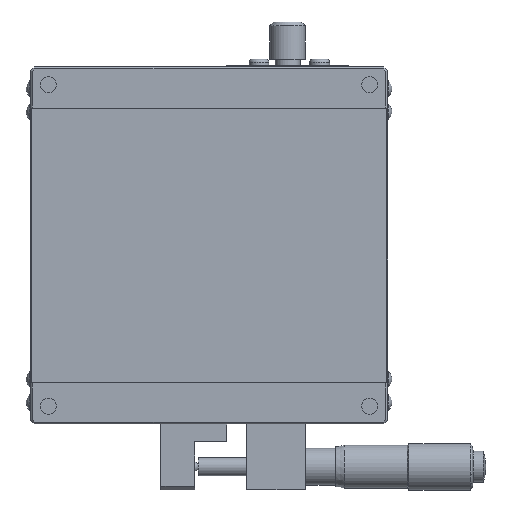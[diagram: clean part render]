
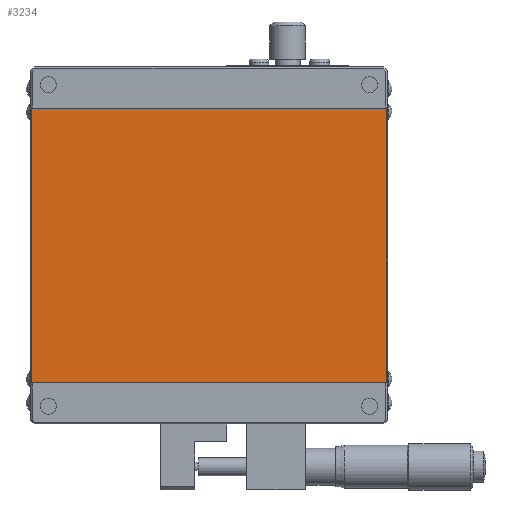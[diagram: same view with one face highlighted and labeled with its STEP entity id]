
A CAD part, front view. The second image highlights one B-rep face of the part: STEP entity #3234.
In plain terms, the highlighted planar face has unit normal (0, -1, 0).
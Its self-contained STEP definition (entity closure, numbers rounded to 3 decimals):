
#585=ORIENTED_EDGE('',*,*,#1259,.T.);
#586=ORIENTED_EDGE('',*,*,#1298,.T.);
#587=ORIENTED_EDGE('',*,*,#1263,.T.);
#588=ORIENTED_EDGE('',*,*,#1297,.F.);
#1259=EDGE_CURVE('',#1648,#1649,#1955,.F.);
#1263=EDGE_CURVE('',#1651,#1650,#1959,.F.);
#1297=EDGE_CURVE('',#1648,#1650,#1977,.T.);
#1298=EDGE_CURVE('',#1649,#1651,#1978,.T.);
#1648=VERTEX_POINT('',#5165);
#1649=VERTEX_POINT('',#5168);
#1650=VERTEX_POINT('',#5176);
#1651=VERTEX_POINT('',#5178);
#1955=LINE('',#5169,#2197);
#1959=LINE('',#5177,#2201);
#1977=LINE('',#5252,#2219);
#1978=LINE('',#5254,#2220);
#2197=VECTOR('',#4053,1000.);
#2201=VECTOR('',#4063,1000.);
#2219=VECTOR('',#4169,1000.);
#2220=VECTOR('',#4172,1000.);
#2409=EDGE_LOOP('',(#585,#586,#587,#588));
#2763=FACE_BOUND('',#2409,.T.);
#3085=PLANE('',#3540);
#3234=ADVANCED_FACE('',(#2763),#3085,.F.);
#3540=AXIS2_PLACEMENT_3D('',#5253,#4170,#4171);
#4053=DIRECTION('',(0.,0.,-1.));
#4063=DIRECTION('',(0.,0.,1.));
#4169=DIRECTION('',(-1.,0.,0.));
#4170=DIRECTION('',(0.,1.,0.));
#4171=DIRECTION('',(0.,0.,1.));
#4172=DIRECTION('',(-1.,0.,0.));
#5165=CARTESIAN_POINT('',(49.8,0.3,-38.5));
#5168=CARTESIAN_POINT('',(49.8,0.3,38.5));
#5169=CARTESIAN_POINT('',(49.8,0.3,49.));
#5176=CARTESIAN_POINT('',(-49.8,0.3,-38.5));
#5177=CARTESIAN_POINT('',(-49.8,0.3,-49.));
#5178=CARTESIAN_POINT('',(-49.8,0.3,38.5));
#5252=CARTESIAN_POINT('',(50.,0.3,-38.5));
#5253=CARTESIAN_POINT('',(50.,0.3,38.5));
#5254=CARTESIAN_POINT('',(50.,0.3,38.5));
